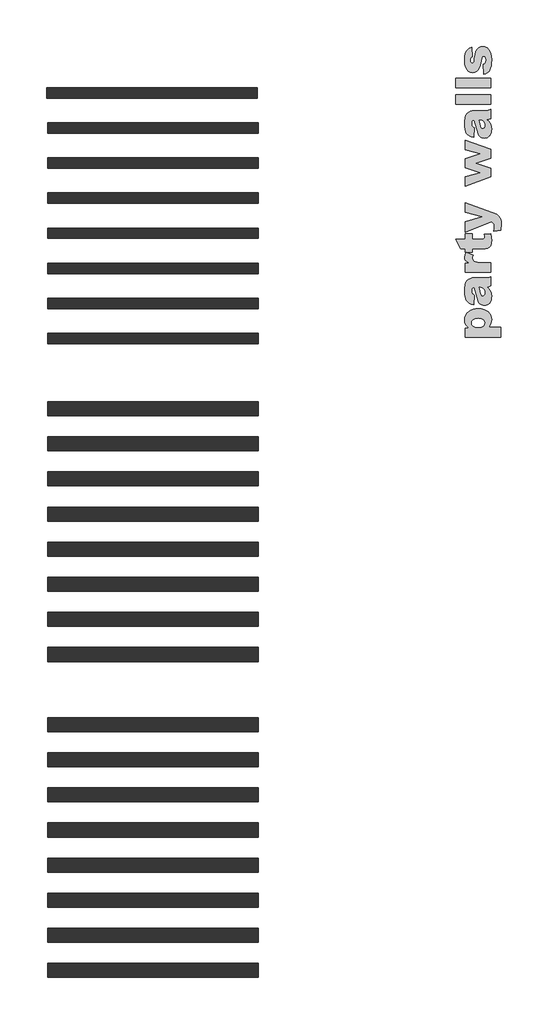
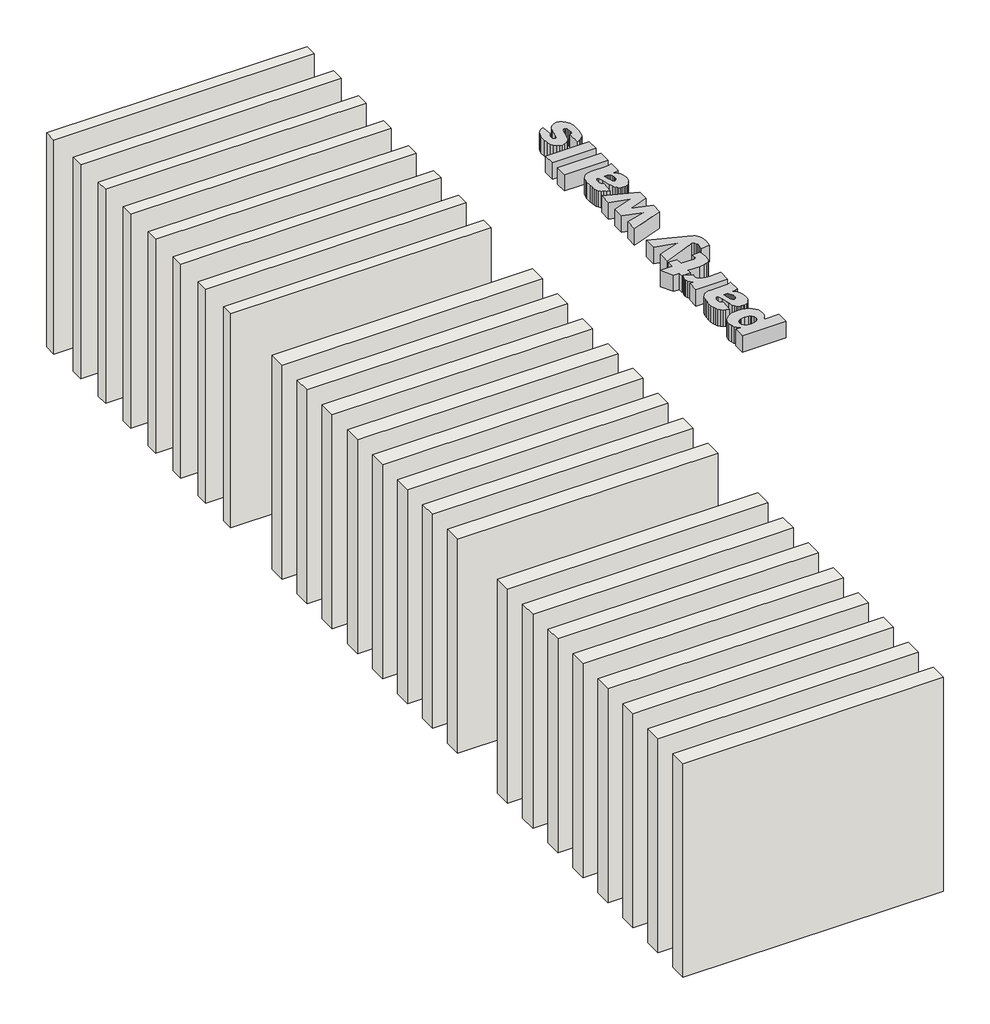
# One storey: 24 walls, 1 proxy.
"""IFC4 building model written with IfcOpenShell, lengths in millimetres."""

from ifc_helpers import new_model, si_unit, origin, origin_with_axes, place, context, project, spatial, polyline, outline, extrude, element, save

model = new_model("IFC4")

# Units and contexts
model_context = context("Model", 3, world=origin())
ifc_project = project(units=[si_unit("LENGTHUNIT", "METRE", prefix="MILLI")], contexts=[model_context])

# Site, building, storey
site = spatial("IfcSite", under=ifc_project)
building = spatial("IfcBuilding", under=site)
storey = spatial("IfcBuildingStorey", under=building, Name="faay_bottom_view_color", Elevation=0.0)

# Proxy
placement = place(None, origin())
element("IfcBuildingElementProxy", 1, Name="500 Arial Black", ObjectType="500 Arial Black", at=placement, inside=storey, context=model_context, shape_type="SweptSolid", body=[
    extrude(outline(polyline([(34297.1709233, 15187.5400867), (33797.1709233, 15187.5400867), (33797.1709233, 15314.8378808), (33847.5692076, 15314.8378808), (33819.9573816, 15341.2625132), (33802.9920017, 15365.3893514), (33791.2732517, 15398.0180279), (33787.3670017, 15434.0168024), (33790.8759248, 15469.0581627), (33801.4026941, 15499.8869004), (33818.9473096, 15526.5030156), (33843.5097713, 15548.9065083), (33873.2422698, 15566.666542), (33906.2969956, 15579.3522803), (33942.6739487, 15586.9637233), (33982.3731292, 15589.500871), (34025.3179438, 15586.7291568), (34062.8533682, 15578.4140144), (34094.9794022, 15564.5554436), (34121.6960459, 15545.1534445), (34142.7065008, 15521.5196746), (34157.7139687, 15494.9657913), (34166.7184494, 15465.4917947), (34169.7199429, 15433.0976847), (34167.1349245, 15401.6370536), (34159.3798694, 15373.1252583), (34146.5696672, 15347.5240021), (34128.8192076, 15324.7949886), (34297.1709233, 15324.7949886), (34297.1709233, 15187.5400867)]), holes=[polyline([(33980.5348939, 15323.7226847), (34020.8420324, 15328.5289041), (34036.5292643, 15334.5366783), (34049.238938, 15342.9475622), (34066.0702799, 15364.7191614), (34071.6807272, 15391.5842043), (34066.3000593, 15415.2514837), (34050.1580557, 15434.7827337), (34037.5345492, 15442.4228992), (34021.1867015, 15447.8801602), (33977.3179821, 15452.245969), (33936.1491709, 15447.7078257), (33920.3039656, 15442.0351464), (33907.6182272, 15434.0933955), (33890.9592199, 15413.9302521), (33885.4062174, 15389.745969), (33891.0166647, 15363.7808955), (33907.8480066, 15342.5645965), (33920.8066081, 15334.3212601), (33937.2406231, 15328.4331627), (33980.5348939, 15323.7226847)])]), origin_with_axes(), (0.0, 0.0, 1.0), 200.0),
    extrude(outline(polyline([(33924.6219037, 15785.5793024), (33914.8179821, 15648.3244004), (33879.2596182, 15657.324094), (33852.241389, 15669.6172926), (33830.9676451, 15686.620969), (33812.642737, 15709.7520965), (33802.0154392, 15731.9832546), (33794.0306047, 15761.2992779), (33789.0329025, 15795.5172619), (33787.3670017, 15832.4543024), (33789.1286439, 15887.8311406), (33794.4135704, 15931.1062632), (33805.2514993, 15965.2285058), (33823.6721488, 15993.1467043), (33842.3608743, 16008.752556), (33867.4834233, 16020.6436406), (33895.1718424, 16028.1689163), (33921.5581782, 16030.6773416), (34082.4037664, 16030.6773416), (34122.6917566, 16033.8942533), (34159.9160213, 16048.1405769), (34159.9160213, 15916.5535671), (34132.5722713, 15906.2134935), (34103.0839135, 15901.3881259), (34131.6148571, 15875.1166798), (34150.7248449, 15848.99842), (34164.9711684, 15810.4337754), (34169.7199429, 15766.1246455), (34167.8817076, 15736.6841584), (34162.3670017, 15711.0158833), (34153.1758253, 15689.1198201), (34140.3081782, 15670.995969), (34124.7406231, 15656.7879421), (34107.4497223, 15646.6393514), (34088.435476, 15640.550197), (34067.6978841, 15638.5204788), (34048.3772652, 15639.9853226), (34030.8565851, 15644.3798538), (34015.1358437, 15651.7040726), (34001.215041, 15661.9579788), (33989.027158, 15676.0798385), (33978.5051758, 15695.1611038), (33962.4589135, 15748.2018514), (33940.7830557, 15846.0112877), (33924.6219037, 15893.4224396), (33906.1246611, 15891.0480524), (33894.1378351, 15883.9248906), (33887.5891218, 15870.8657607), (33885.4062174, 15850.683469), (33887.8954944, 15823.9141676), (33895.3633253, 15804.880773), (33906.5842199, 15794.0811406), (33924.6219037, 15785.5793024)]), holes=[polyline([(33993.2493547, 15893.4224396), (34007.0361194, 15837.2030769), (34015.5379576, 15804.6509935), (34023.8866096, 15786.6516063), (34033.0394895, 15778.4944372), (34043.3412664, 15775.7753808), (34054.7344956, 15778.4752889), (34063.7916341, 15786.5750132), (34069.7084539, 15799.8830708), (34071.6807272, 15818.2079788), (34069.5361194, 15839.3285364), (34063.1022959, 15858.8789347), (34053.5855986, 15874.925197), (34042.1923694, 15885.5333465), (34028.0034907, 15891.4501663), (34010.0998449, 15893.4224396), (33993.2493547, 15893.4224396)])]), origin_with_axes(), (0.0, 0.0, 1.0), 200.0),
    extrude(outline(polyline([(33797.1709233, 16109.1087141), (33797.1709233, 16237.0192533), (33855.5348939, 16237.0192533), (33822.6955863, 16256.1866859), (33801.996291, 16276.0051602), (33791.024324, 16298.5043943), (33787.3670017, 16325.7141063), (33792.4987419, 16358.1130033), (33807.8939625, 16393.4224396), (33905.4736194, 16350.0707239), (33897.7760091, 16327.8587141), (33895.210139, 16310.8550377), (33900.8780312, 16286.3835303), (33917.8817076, 16268.1160671), (33937.3650869, 16258.5993698), (33963.7992934, 16251.8017288), (33997.1843271, 16247.7231443), (34037.520188, 16246.3636161), (34159.9160213, 16246.3636161), (34159.9160213, 16109.1087141), (33797.1709233, 16109.1087141)])), origin_with_axes(), (0.0, 0.0, 1.0), 200.0),
    extrude(outline(polyline([(33659.9160213, 16579.6969494), (33797.1709233, 16579.6969494), (33797.1709233, 16658.128322), (33895.210139, 16658.128322), (33895.210139, 16579.6969494), (34028.022639, 16579.6969494), (34047.8985581, 16580.7692533), (34059.7321978, 16583.9861651), (34068.6935949, 16593.0241553), (34071.6807272, 16606.9641063), (34069.3829331, 16624.657121), (34062.4895508, 16648.3244004), (34158.5373449, 16658.128322), (34166.9242934, 16609.4150867), (34169.7199429, 16564.0719494), (34166.3306966, 16520.1457852), (34156.1629576, 16489.4702337), (34139.082688, 16468.5603073), (34114.9558498, 16453.9310181), (34078.7081476, 16445.3142901), (34025.2652861, 16442.4420475), (33895.210139, 16442.4420475), (33895.210139, 16393.4224396), (33797.1709233, 16393.4224396), (33797.1709233, 16442.4420475), (33730.9944527, 16442.4420475), (33659.9160213, 16579.6969494)])), origin_with_axes(), (0.0, 0.0, 1.0), 200.0),
    extrude(outline(polyline([(33797.1709233, 16677.7361651), (33797.1709233, 16825.7141063), (34038.5924919, 16898.3244004), (33797.1709233, 16964.3476847), (33797.1709233, 17099.3047926), (34185.6513155, 16959.2925377), (34240.7217812, 16934.667844), (34260.2721794, 16922.1544402), (34274.4993547, 16909.5069984), (34288.7073816, 16889.2385395), (34298.8559723, 16864.2787509), (34304.9451267, 16834.6276326), (34306.9748449, 16800.2851847), (34298.5495998, 16708.2202337), (34199.897639, 16697.3440083), (34206.6761316, 16729.0152705), (34208.9356292, 16763.9800377), (34206.4272039, 16786.1537509), (34198.9019282, 16803.6552828), (34184.9428289, 16817.6718269), (34163.1329331, 16829.3905769), (33797.1709233, 16677.7361651)])), origin_with_axes(), (0.0, 0.0, 1.0), 200.0),
    extrude(outline(polyline([(33797.1709233, 17334.5989102), (33797.1709233, 17469.8623906), (34010.0998449, 17528.0731749), (33797.1709233, 17597.1601847), (33797.1709233, 17727.8280769), (34010.8657763, 17799.2128808), (33797.1709233, 17856.3513612), (33797.1709233, 17991.4616553), (34159.9160213, 17858.8023416), (34159.9160213, 17735.9469494), (33941.6255802, 17663.0302828), (34159.9160213, 17592.2582239), (34159.9160213, 17468.4837141), (33797.1709233, 17334.5989102)])), origin_with_axes(), (0.0, 0.0, 1.0), 200.0),
    extrude(outline(polyline([(33924.6219037, 18167.9322435), (33914.8179821, 18030.6773416), (33879.2596182, 18039.6770352), (33852.241389, 18051.9702337), (33830.9676451, 18068.9739102), (33812.642737, 18092.1050377), (33802.0154392, 18114.3361958), (33794.0306047, 18143.652219), (33789.0329025, 18177.8702031), (33787.3670017, 18214.8072435), (33789.1286439, 18270.1840818), (33794.4135704, 18313.4592043), (33805.2514993, 18347.581447), (33823.6721488, 18375.4996455), (33842.3608743, 18391.1054972), (33867.4834233, 18402.9965818), (33895.1718424, 18410.5218575), (33921.5581782, 18413.0302828), (34082.4037664, 18413.0302828), (34122.6917566, 18416.2471945), (34159.9160213, 18430.4935181), (34159.9160213, 18298.9065083), (34132.5722713, 18288.5664347), (34103.0839135, 18283.7410671), (34131.6148571, 18257.469621), (34150.7248449, 18231.3513612), (34164.9711684, 18192.7867166), (34169.7199429, 18148.4775867), (34167.8817076, 18119.0370996), (34162.3670017, 18093.3688244), (34153.1758253, 18071.4727613), (34140.3081782, 18053.3489102), (34124.7406231, 18039.1408833), (34107.4497223, 18028.9922926), (34088.435476, 18022.9031382), (34067.6978841, 18020.87342), (34048.3772652, 18022.3382638), (34030.8565851, 18026.732795), (34015.1358437, 18034.0570138), (34001.215041, 18044.31092), (33989.027158, 18058.4327797), (33978.5051758, 18077.514045), (33962.4589135, 18130.5547926), (33940.7830557, 18228.3642288), (33924.6219037, 18275.7753808), (33906.1246611, 18273.4009935), (33894.1378351, 18266.2778318), (33887.5891218, 18253.2187019), (33885.4062174, 18233.0364102), (33887.8954944, 18206.2671087), (33895.3633253, 18187.2337141), (33906.5842199, 18176.4340818), (33924.6219037, 18167.9322435)]), holes=[polyline([(33993.2493547, 18275.7753808), (34007.0361194, 18219.5560181), (34015.5379576, 18187.0039347), (34023.8866096, 18169.0045475), (34033.0394895, 18160.8473783), (34043.3412664, 18158.128322), (34054.7344956, 18160.8282301), (34063.7916341, 18168.9279543), (34069.7084539, 18182.2360119), (34071.6807272, 18200.56092), (34069.5361194, 18221.6814776), (34063.1022959, 18241.2318759), (34053.5855986, 18257.2781382), (34042.1923694, 18267.8862877), (34028.0034907, 18273.8031075), (34010.0998449, 18275.7753808), (33993.2493547, 18275.7753808)])]), origin_with_axes(), (0.0, 0.0, 1.0), 200.0),
    extrude(outline(polyline([(33659.9160213, 18501.2655769), (33659.9160213, 18638.5204788), (34159.9160213, 18638.5204788), (34159.9160213, 18501.2655769), (33659.9160213, 18501.2655769)])), origin_with_axes(), (0.0, 0.0, 1.0), 200.0),
    extrude(outline(polyline([(33659.9160213, 18736.5596945), (33659.9160213, 18873.8145965), (34159.9160213, 18873.8145965), (34159.9160213, 18736.5596945), (33659.9160213, 18736.5596945)])), origin_with_axes(), (0.0, 0.0, 1.0), 200.0),
    extrude(outline(polyline([(34061.8768057, 18932.6381259), (34052.0728841, 19069.8930279), (34070.1871611, 19079.9650254), (34082.2505802, 19093.3305279), (34089.0290728, 19110.8703563), (34091.2885704, 19133.4653318), (34088.3397346, 19157.7070597), (34079.4932272, 19175.8979298), (34069.6893057, 19184.6295475), (34057.7407763, 19187.5400867), (34044.6816463, 19184.8976234), (34034.9160213, 19176.9702337), (34028.5970875, 19159.1623293), (34020.9760704, 19120.750871), (34008.9509478, 19058.9785058), (33997.6917566, 19019.4947435), (33983.0624674, 18993.3764837), (33960.9270508, 18971.7006259), (33933.2386316, 18957.1096333), (33901.9503351, 18952.245969), (33868.1727615, 18957.5308955), (33839.4503351, 18973.3856749), (33816.5681353, 18998.4890757), (33800.3112419, 19031.5198661), (33790.6030618, 19074.8524335), (33787.3670017, 19130.8611651), (33789.875427, 19187.9804972), (33797.4007027, 19227.90467), (33810.1917566, 19256.6462448), (33828.4975164, 19280.2177828), (33853.2562481, 19299.4043636), (33885.4062174, 19314.9910671), (33895.210139, 19177.7361651), (33882.9935336, 19171.800197), (33874.5299919, 19162.8770965), (33867.9812787, 19147.2520965), (33865.7983743, 19128.563371), (33867.8472407, 19110.9469494), (33873.99384, 19098.8452337), (33883.089275, 19091.8369617), (33893.9846488, 19089.500871), (33905.4353228, 19091.4156994), (33913.7456782, 19097.1601847), (33920.1412052, 19114.4319372), (33925.8473939, 19150.9285671), (33935.0768669, 19211.7052215), (33947.4466586, 19254.6356749), (33964.3737419, 19284.6601847), (33987.27509, 19306.7190083), (34014.4273571, 19320.2759935), (34044.1071978, 19324.7949886), (34075.0508253, 19319.969621), (34105.0753351, 19305.4935181), (34131.6340054, 19280.639045), (34152.1801145, 19244.6785671), (34165.3349858, 19195.6589592), (34169.7199429, 19131.6270965), (34167.9678749, 19084.7137999), (34162.7116709, 19045.0768514), (34153.9513308, 19012.7162509), (34141.6868547, 18987.6319984), (34126.1863185, 18968.1103226), (34107.7177983, 18952.4374519), (34086.281294, 18940.6133863), (34061.8768057, 18932.6381259)])), origin_with_axes(), (0.0, 0.0, 1.0), 200.0),
])

# Walls
element("IfcWall", 2, ObjectType="Faay_22_IW148_", at=placement, inside=storey, context=model_context, shape_type="SweptSolid", body=[
    extrude(outline(polyline([(30830.9340793, 18590.8247672), (27830.9340793, 18590.8247672), (27830.9340793, 18738.8247672), (30830.9340793, 18738.8247672), (30830.9340793, 18590.8247672)])), origin_with_axes(), (0.0, 0.0, 1.0), 2605.0),
])
element("IfcWall", 3, ObjectType="Faay_22_IW200_54_", at=placement, inside=storey, context=model_context, shape_type="SweptSolid", body=[
    extrude(outline(polyline([(30848.3838276, 14065.1293537), (27848.3838276, 14065.1293537), (27848.3838276, 14265.1293537), (30848.3838276, 14265.1293537), (30848.3838276, 14065.1293537)])), origin_with_axes(), (0.0, 0.0, 1.0), 2605.0),
])
element("IfcWall", 4, ObjectType="Faay_22_IW200_70_", at=placement, inside=storey, context=model_context, shape_type="SweptSolid", body=[
    extrude(outline(polyline([(30848.3838276, 9565.1293537), (27848.3838276, 9565.1293537), (27848.3838276, 9765.1293537), (30848.3838276, 9765.1293537), (30848.3838276, 9565.1293537)])), origin_with_axes(), (0.0, 0.0, 1.0), 2605.0),
])
element("IfcWall", 5, ObjectType="Faay_22_IW200_54_WR1x_B", at=placement, inside=storey, context=model_context, shape_type="SweptSolid", body=[
    extrude(outline(polyline([(30848.3838276, 11065.1293537), (27848.3838276, 11065.1293537), (27848.3838276, 11265.1293537), (30848.3838276, 11265.1293537), (30848.3838276, 11065.1293537)])), origin_with_axes(), (0.0, 0.0, 1.0), 2605.0),
])
element("IfcWall", 6, ObjectType="Faay_22_IW200_70_WR1x_F", at=placement, inside=storey, context=model_context, shape_type="SweptSolid", body=[
    extrude(outline(polyline([(30848.3838276, 7065.1293537), (27848.3838276, 7065.1293537), (27848.3838276, 7265.1293537), (30848.3838276, 7265.1293537), (30848.3838276, 7065.1293537)])), origin_with_axes(), (0.0, 0.0, 1.0), 2605.0),
])
element("IfcWall", 7, ObjectType="Faay_22_IW200_54_WR2x", at=placement, inside=storey, context=model_context, shape_type="SweptSolid", body=[
    extrude(outline(polyline([(30848.3838276, 10565.1293537), (27848.3838276, 10565.1293537), (27848.3838276, 10765.1293537), (30848.3838276, 10765.1293537), (30848.3838276, 10565.1293537)])), origin_with_axes(), (0.0, 0.0, 1.0), 2605.0),
])
element("IfcWall", 8, ObjectType="Faay_22_IW200_70_WR2x", at=placement, inside=storey, context=model_context, shape_type="SweptSolid", body=[
    extrude(outline(polyline([(30848.3838276, 6065.1293537), (27848.3838276, 6065.1293537), (27848.3838276, 6265.1293537), (30848.3838276, 6265.1293537), (30848.3838276, 6065.1293537)])), origin_with_axes(), (0.0, 0.0, 1.0), 2605.0),
])
element("IfcWall", 9, ObjectType="Faay_22_IW148_WR1x_B", at=placement, inside=storey, context=model_context, shape_type="SweptSolid", body=[
    extrude(outline(polyline([(30848.3838276, 15591.1293537), (27848.3838276, 15591.1293537), (27848.3838276, 15739.1293537), (30848.3838276, 15739.1293537), (30848.3838276, 15591.1293537)])), origin_with_axes(), (0.0, 0.0, 1.0), 2605.0),
])
element("IfcWall", 10, ObjectType="Faay_22_IW148_WR2x", at=placement, inside=storey, context=model_context, shape_type="SweptSolid", body=[
    extrude(outline(polyline([(30848.3838276, 15091.1293537), (27848.3838276, 15091.1293537), (27848.3838276, 15239.1293537), (30848.3838276, 15239.1293537), (30848.3838276, 15091.1293537)])), origin_with_axes(), (0.0, 0.0, 1.0), 2605.0),
])
element("IfcWall", 11, ObjectType="Faay_22_IW148_V1x", at=placement, inside=storey, context=model_context, shape_type="SweptSolid", body=[
    extrude(outline(polyline([(30848.3838276, 18091.1293537), (27848.3838276, 18091.1293537), (27848.3838276, 18239.1293537), (30848.3838276, 18239.1293537), (30848.3838276, 18091.1293537)])), origin_with_axes(), (0.0, 0.0, 1.0), 2605.0),
])
element("IfcWall", 12, ObjectType="Faay_22_IW148_V2x", at=placement, inside=storey, context=model_context, shape_type="SweptSolid", body=[
    extrude(outline(polyline([(30848.3838276, 17591.1293537), (27848.3838276, 17591.1293537), (27848.3838276, 17739.1293537), (30848.3838276, 17739.1293537), (30848.3838276, 17591.1293537)])), origin_with_axes(), (0.0, 0.0, 1.0), 2605.0),
])
element("IfcWall", 13, ObjectType="Faay_22_IW148_V1x_WR1x_B", at=placement, inside=storey, context=model_context, shape_type="SweptSolid", body=[
    extrude(outline(polyline([(30848.3838276, 16591.1293537), (27848.3838276, 16591.1293537), (27848.3838276, 16739.1293537), (30848.3838276, 16739.1293537), (30848.3838276, 16591.1293537)])), origin_with_axes(), (0.0, 0.0, 1.0), 2605.0),
])
element("IfcWall", 14, ObjectType="Faay_22_IW200_54_ V1x", at=placement, inside=storey, context=model_context, shape_type="SweptSolid", body=[
    extrude(outline(polyline([(30848.3838276, 13565.1293537), (27848.3838276, 13565.1293537), (27848.3838276, 13765.1293537), (30848.3838276, 13765.1293537), (30848.3838276, 13565.1293537)])), origin_with_axes(), (0.0, 0.0, 1.0), 2605.0),
])
element("IfcWall", 15, ObjectType="Faay_22_IW200_54_ V2x", at=placement, inside=storey, context=model_context, shape_type="SweptSolid", body=[
    extrude(outline(polyline([(30848.3838276, 13065.1293537), (27848.3838276, 13065.1293537), (27848.3838276, 13265.1293537), (30848.3838276, 13265.1293537), (30848.3838276, 13065.1293537)])), origin_with_axes(), (0.0, 0.0, 1.0), 2605.0),
])
element("IfcWall", 16, ObjectType="Faay_22_IW200_54_V1_WR1x_B", at=placement, inside=storey, context=model_context, shape_type="SweptSolid", body=[
    extrude(outline(polyline([(30848.3838276, 12065.1293537), (27848.3838276, 12065.1293537), (27848.3838276, 12265.1293537), (30848.3838276, 12265.1293537), (30848.3838276, 12065.1293537)])), origin_with_axes(), (0.0, 0.0, 1.0), 2605.0),
])
element("IfcWall", 17, ObjectType="Faay_22_IW200_70_V1x", at=placement, inside=storey, context=model_context, shape_type="SweptSolid", body=[
    extrude(outline(polyline([(30848.3838276, 9065.1293537), (27848.3838276, 9065.1293537), (27848.3838276, 9265.1293537), (30848.3838276, 9265.1293537), (30848.3838276, 9065.1293537)])), origin_with_axes(), (0.0, 0.0, 1.0), 2605.0),
])
element("IfcWall", 18, ObjectType="Faay_22_IW200_70_V2x", at=placement, inside=storey, context=model_context, shape_type="SweptSolid", body=[
    extrude(outline(polyline([(30848.3838276, 8565.1293537), (27848.3838276, 8565.1293537), (27848.3838276, 8765.1293537), (30848.3838276, 8765.1293537), (30848.3838276, 8565.1293537)])), origin_with_axes(), (0.0, 0.0, 1.0), 2605.0),
])
element("IfcWall", 19, ObjectType="Faay_22_IW200_70_V1x_WR1x_F", at=placement, inside=storey, context=model_context, shape_type="SweptSolid", body=[
    extrude(outline(polyline([(30848.3838276, 8065.1293537), (27848.3838276, 8065.1293537), (27848.3838276, 8265.1293537), (30848.3838276, 8265.1293537), (30848.3838276, 8065.1293537)])), origin_with_axes(), (0.0, 0.0, 1.0), 2605.0),
])
element("IfcWall", 20, ObjectType="Faay_22_IW148_V1x_WR1x_F", at=placement, inside=storey, context=model_context, shape_type="SweptSolid", body=[
    extrude(outline(polyline([(30848.3838276, 17091.1293537), (27848.3838276, 17091.1293537), (27848.3838276, 17239.1293537), (30848.3838276, 17239.1293537), (30848.3838276, 17091.1293537)])), origin_with_axes(), (0.0, 0.0, 1.0), 2605.0),
])
element("IfcWall", 21, ObjectType="Faay_22_IW148_WR1x_F", at=placement, inside=storey, context=model_context, shape_type="SweptSolid", body=[
    extrude(outline(polyline([(30848.3838276, 16091.1293537), (27848.3838276, 16091.1293537), (27848.3838276, 16239.1293537), (30848.3838276, 16239.1293537), (30848.3838276, 16091.1293537)])), origin_with_axes(), (0.0, 0.0, 1.0), 2605.0),
])
element("IfcWall", 22, ObjectType="Faay_22_IW200_70_WR1x_B", at=placement, inside=storey, context=model_context, shape_type="SweptSolid", body=[
    extrude(outline(polyline([(30848.3838276, 6565.1293537), (27848.3838276, 6565.1293537), (27848.3838276, 6765.1293537), (30848.3838276, 6765.1293537), (30848.3838276, 6565.1293537)])), origin_with_axes(), (0.0, 0.0, 1.0), 2605.0),
])
element("IfcWall", 23, ObjectType="Faay_22_IW200_70_V1x_WR1x_B", at=placement, inside=storey, context=model_context, shape_type="SweptSolid", body=[
    extrude(outline(polyline([(30848.3838276, 7565.1293537), (27848.3838276, 7565.1293537), (27848.3838276, 7765.1293537), (30848.3838276, 7765.1293537), (30848.3838276, 7565.1293537)])), origin_with_axes(), (0.0, 0.0, 1.0), 2605.0),
])
element("IfcWall", 24, ObjectType="Faay_22_IW200_54_WR1x_F", at=placement, inside=storey, context=model_context, shape_type="SweptSolid", body=[
    extrude(outline(polyline([(30848.3838276, 11565.1293537), (27848.3838276, 11565.1293537), (27848.3838276, 11765.1293537), (30848.3838276, 11765.1293537), (30848.3838276, 11565.1293537)])), origin_with_axes(), (0.0, 0.0, 1.0), 2605.0),
])
element("IfcWall", 25, ObjectType="Faay_22_IW200_54_V1_WR1x_F", at=placement, inside=storey, context=model_context, shape_type="SweptSolid", body=[
    extrude(outline(polyline([(30848.3838276, 12565.1293537), (27848.3838276, 12565.1293537), (27848.3838276, 12765.1293537), (30848.3838276, 12765.1293537), (30848.3838276, 12565.1293537)])), origin_with_axes(), (0.0, 0.0, 1.0), 2605.0),
])

save(model, "model.ifc")
